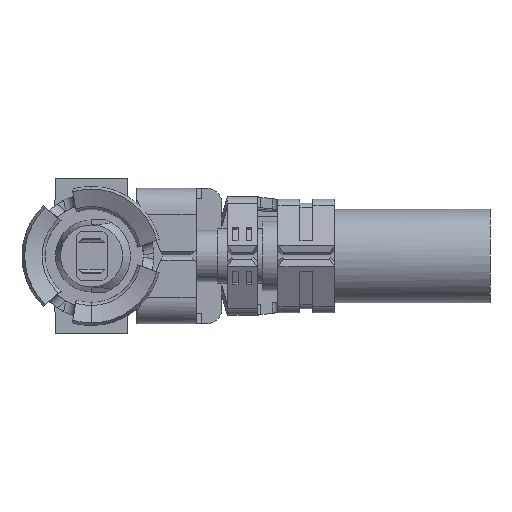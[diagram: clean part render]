
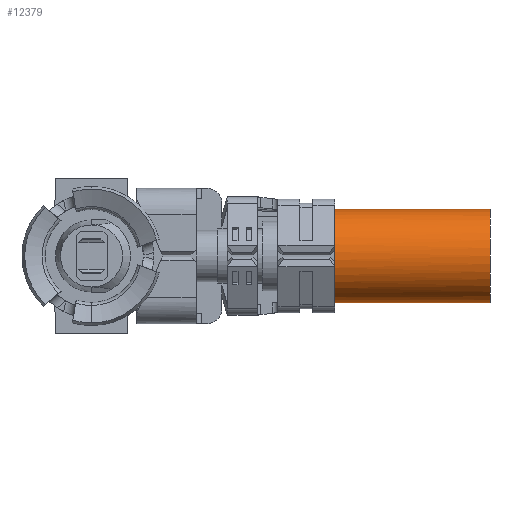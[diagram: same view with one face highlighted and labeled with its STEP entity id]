
A CAD part, front view. The second image highlights one B-rep face of the part: STEP entity #12379.
In plain terms, the highlighted cylindrical face has radius 0.9 mm (diameter 1.8 mm), a partial arc.
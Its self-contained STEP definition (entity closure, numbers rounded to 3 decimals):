
#678 = VERTEX_POINT ( 'NONE', #1164 ) ;
#733 = CARTESIAN_POINT ( 'NONE',  ( 7.7, -0.8, 0. ) ) ;
#1114 = EDGE_LOOP ( 'NONE', ( #12665, #2770, #2498, #7449, #6551, #3635 ) ) ;
#1164 = CARTESIAN_POINT ( 'NONE',  ( 4.7, -1.076, 0.857 ) ) ;
#1485 = EDGE_CURVE ( 'NONE', #3777, #6202, #10422, .T. ) ;
#1599 = CARTESIAN_POINT ( 'NONE',  ( 4.7, -0.8, 0.9 ) ) ;
#1929 = DIRECTION ( 'NONE',  ( 1., 0., 0. ) ) ;
#2209 = VERTEX_POINT ( 'NONE', #1599 ) ;
#2498 = ORIENTED_EDGE ( 'NONE', *, *, #9094, .T. ) ;
#2770 = ORIENTED_EDGE ( 'NONE', *, *, #11094, .F. ) ;
#3635 = ORIENTED_EDGE ( 'NONE', *, *, #1485, .T. ) ;
#3777 = VERTEX_POINT ( 'NONE', #12340 ) ;
#3818 = DIRECTION ( 'NONE',  ( -1., 0., 0. ) ) ;
#3860 = VECTOR ( 'NONE', #6105, 1000. ) ;
#4125 = FACE_OUTER_BOUND ( 'NONE', #1114, .T. ) ;
#4198 = CARTESIAN_POINT ( 'NONE',  ( 7.7, -0.8, 0.9 ) ) ;
#4306 = VERTEX_POINT ( 'NONE', #10085 ) ;
#4488 = AXIS2_PLACEMENT_3D ( 'NONE', #12787, #6377, #13836 ) ;
#5269 = AXIS2_PLACEMENT_3D ( 'NONE', #12453, #6040, #13513 ) ;
#6040 = DIRECTION ( 'NONE',  ( 1., 0., 0. ) ) ;
#6103 = CARTESIAN_POINT ( 'NONE',  ( 7.7, -0.8, 0. ) ) ;
#6105 = DIRECTION ( 'NONE',  ( -1., 0., 0. ) ) ;
#6202 = VERTEX_POINT ( 'NONE', #9907 ) ;
#6377 = DIRECTION ( 'NONE',  ( 1., 0., 0. ) ) ;
#6381 = LINE ( 'NONE', #12520, #3860 ) ;
#6492 = CIRCLE ( 'NONE', #7288, 0.9 ) ;
#6551 = ORIENTED_EDGE ( 'NONE', *, *, #9768, .T. ) ;
#6832 = VECTOR ( 'NONE', #3818, 1000. ) ;
#7173 = DIRECTION ( 'NONE',  ( 0., 0., 1. ) ) ;
#7190 = DIRECTION ( 'NONE',  ( 0., 0., -1. ) ) ;
#7230 = DIRECTION ( 'NONE',  ( -1., 0., 0. ) ) ;
#7288 = AXIS2_PLACEMENT_3D ( 'NONE', #6103, #13585, #7190 ) ;
#7449 = ORIENTED_EDGE ( 'NONE', *, *, #9152, .T. ) ;
#8341 = CARTESIAN_POINT ( 'NONE',  ( 4.7, -0.8, 0. ) ) ;
#9094 = EDGE_CURVE ( 'NONE', #12042, #2209, #6381, .T. ) ;
#9152 = EDGE_CURVE ( 'NONE', #2209, #678, #9194, .T. ) ;
#9194 = CIRCLE ( 'NONE', #11480, 0.9 ) ;
#9419 = DIRECTION ( 'NONE',  ( 0., 0., -1. ) ) ;
#9768 = EDGE_CURVE ( 'NONE', #678, #3777, #13211, .T. ) ;
#9907 = CARTESIAN_POINT ( 'NONE',  ( 4.7, -0.8, -0.9 ) ) ;
#9964 = AXIS2_PLACEMENT_3D ( 'NONE', #733, #7230, #7173 ) ;
#10085 = CARTESIAN_POINT ( 'NONE',  ( 7.7, -0.8, -0.9 ) ) ;
#10422 = CIRCLE ( 'NONE', #5269, 0.9 ) ;
#10448 = EDGE_CURVE ( 'NONE', #4306, #6202, #12540, .T. ) ;
#11094 = EDGE_CURVE ( 'NONE', #12042, #4306, #6492, .T. ) ;
#11480 = AXIS2_PLACEMENT_3D ( 'NONE', #8341, #1929, #9419 ) ;
#11956 = CYLINDRICAL_SURFACE ( 'NONE', #9964, 0.9 ) ;
#12042 = VERTEX_POINT ( 'NONE', #4198 ) ;
#12340 = CARTESIAN_POINT ( 'NONE',  ( 4.7, -1.076, -0.857 ) ) ;
#12379 = ADVANCED_FACE ( 'NONE', ( #4125 ), #11956, .T. ) ;
#12453 = CARTESIAN_POINT ( 'NONE',  ( 4.7, -0.8, 0. ) ) ;
#12520 = CARTESIAN_POINT ( 'NONE',  ( 7.7, -0.8, 0.9 ) ) ;
#12540 = LINE ( 'NONE', #13414, #6832 ) ;
#12665 = ORIENTED_EDGE ( 'NONE', *, *, #10448, .F. ) ;
#12787 = CARTESIAN_POINT ( 'NONE',  ( 4.7, -0.8, 0. ) ) ;
#13211 = CIRCLE ( 'NONE', #4488, 0.9 ) ;
#13414 = CARTESIAN_POINT ( 'NONE',  ( 7.7, -0.8, -0.9 ) ) ;
#13513 = DIRECTION ( 'NONE',  ( 0., 0., -1. ) ) ;
#13585 = DIRECTION ( 'NONE',  ( 1., 0., 0. ) ) ;
#13836 = DIRECTION ( 'NONE',  ( 0., 0., -1. ) ) ;
